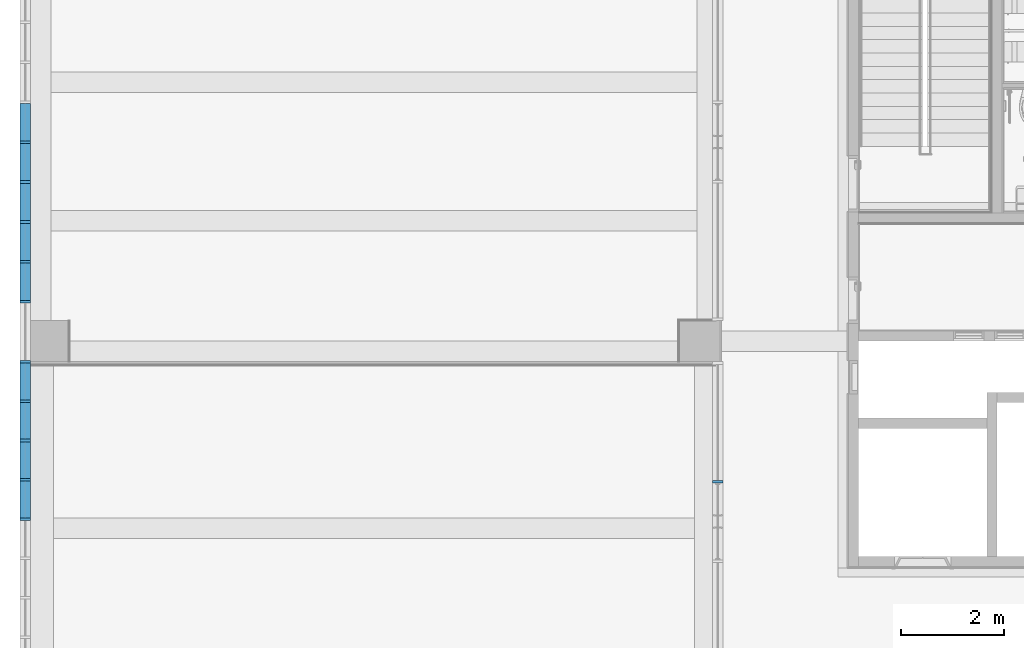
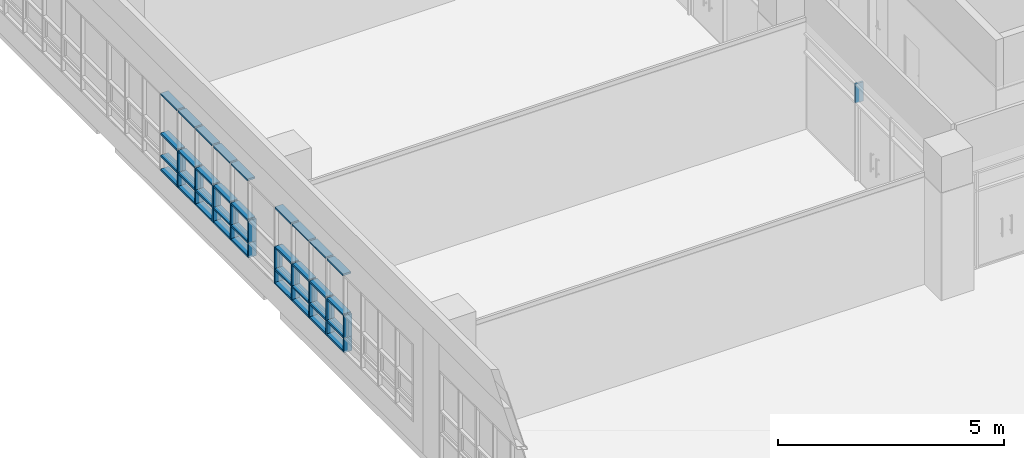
# One storey, part 16 of 81: 57 members, 2 elements without a shape of their own.
"""IFC2X3 building model written with IfcOpenShell, lengths in millimetres."""

from ifc_helpers import new_model, entity, si_unit, converted_unit, derived_unit, direction, frame, origin, origin_2d_with_axis, place, context, subcontext, project, spatial, rectangle, extrude, source, transform, mapped, material, type_object, type_shapes, element, aggregate, save


model = new_model("IFC2X3")

# Units and contexts
model_context = context("Model", 3, precision=0.01, world=origin(), true_north=direction((6.123031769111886e-17, 1.0)))
body_context = subcontext(model_context, "Body", "Model", "MODEL_VIEW")
ifc_project = project(units=[si_unit("LENGTHUNIT", "METRE", prefix="MILLI"), si_unit("AREAUNIT", "SQUARE_METRE"), si_unit("VOLUMEUNIT", "CUBIC_METRE"), converted_unit("PLANEANGLEUNIT", "DEGREE", entity("IfcRatioMeasure", 0.017453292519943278), si_unit("PLANEANGLEUNIT", "RADIAN"), dimensions=[0, 0, 0, 0, 0, 0, 0]), si_unit("MASSUNIT", "GRAM", prefix="KILO"), derived_unit("MASSDENSITYUNIT", [(si_unit("MASSUNIT", "GRAM", prefix="KILO"), 1), (si_unit("LENGTHUNIT", "METRE"), -3)]), derived_unit("MOMENTOFINERTIAUNIT", [(si_unit("LENGTHUNIT", "METRE"), 4)]), si_unit("TIMEUNIT", "SECOND"), si_unit("FREQUENCYUNIT", "HERTZ"), si_unit("THERMODYNAMICTEMPERATUREUNIT", "DEGREE_CELSIUS"), derived_unit("THERMALTRANSMITTANCEUNIT", [(si_unit("MASSUNIT", "GRAM", prefix="KILO"), 1), (si_unit("THERMODYNAMICTEMPERATUREUNIT", "KELVIN"), -1), (si_unit("TIMEUNIT", "SECOND"), -3)]), derived_unit("VOLUMETRICFLOWRATEUNIT", [(si_unit("LENGTHUNIT", "METRE"), 3), (si_unit("TIMEUNIT", "SECOND"), -1)]), derived_unit("MASSFLOWRATEUNIT", [(si_unit("MASSUNIT", "GRAM", prefix="KILO"), 1), (si_unit("TIMEUNIT", "SECOND"), -1)]), derived_unit("ROTATIONALFREQUENCYUNIT", [(si_unit("TIMEUNIT", "SECOND"), -1)]), si_unit("ELECTRICCURRENTUNIT", "AMPERE"), si_unit("ELECTRICVOLTAGEUNIT", "VOLT"), si_unit("POWERUNIT", "WATT"), si_unit("FORCEUNIT", "NEWTON", prefix="KILO"), si_unit("ILLUMINANCEUNIT", "LUX"), si_unit("LUMINOUSFLUXUNIT", "LUMEN"), si_unit("LUMINOUSINTENSITYUNIT", "CANDELA"), derived_unit("USERDEFINED", [(si_unit("MASSUNIT", "GRAM", prefix="KILO"), -1), (si_unit("LENGTHUNIT", "METRE"), -2), (si_unit("TIMEUNIT", "SECOND"), 3), (si_unit("LUMINOUSFLUXUNIT", "LUMEN"), 1)]), derived_unit("SOUNDPOWERUNIT", [(si_unit("MASSUNIT", "GRAM", prefix="KILO"), 1), (si_unit("LENGTHUNIT", "METRE"), 2), (si_unit("TIMEUNIT", "SECOND"), -3)]), derived_unit("SOUNDPRESSUREUNIT", [(si_unit("MASSUNIT", "GRAM", prefix="KILO"), 1), (si_unit("LENGTHUNIT", "METRE"), -1), (si_unit("TIMEUNIT", "SECOND"), -2)]), derived_unit("LINEARVELOCITYUNIT", [(si_unit("LENGTHUNIT", "METRE"), 1), (si_unit("TIMEUNIT", "SECOND"), -1)]), si_unit("PRESSUREUNIT", "PASCAL"), derived_unit("USERDEFINED", [(si_unit("LENGTHUNIT", "METRE"), -2), (si_unit("MASSUNIT", "GRAM", prefix="KILO"), 1), (si_unit("TIMEUNIT", "SECOND"), -2)]), derived_unit("LINEARFORCEUNIT", [(si_unit("MASSUNIT", "GRAM", prefix="KILO"), 1), (si_unit("LENGTHUNIT", "METRE"), 1), (si_unit("TIMEUNIT", "SECOND"), -2), (si_unit("LENGTHUNIT", "METRE"), -1)]), derived_unit("PLANARFORCEUNIT", [(si_unit("MASSUNIT", "GRAM", prefix="KILO"), 1), (si_unit("LENGTHUNIT", "METRE"), 1), (si_unit("TIMEUNIT", "SECOND"), -2), (si_unit("LENGTHUNIT", "METRE"), -2)])], contexts=[model_context])

# Site, building, storey
site_placement = place(None, frame((-14167.972527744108, -657.2125860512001, 0.0)))
site = spatial("IfcSite", under=ifc_project, at=site_placement, Name="Default", CompositionType="ELEMENT")
building_placement = place(site_placement, origin())
building = spatial("IfcBuilding", under=site, at=building_placement, Name="Sample Building", CompositionType="ELEMENT")
storey_placement = place(building_placement, frame((0.0, 0.0, 13400.0)))
storey = spatial("IfcBuildingStorey", under=building, at=storey_placement, Name="지상 4층", CompositionType="ELEMENT", Elevation=13400.00000000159)

# Curtain wall, members
curtain_wall_type = type_object("IfcCurtainWallType", Name="커튼월:CW112-스테인리스 스틸 커튼월", PredefinedType="NOTDEFINED")
curtain_wall_1_placement = place(storey_placement, frame((0.0, 0.0, -13400.0)))
curtain_wall_1 = element("IfcCurtainWall", 1, at=curtain_wall_1_placement, inside=storey, type_object=curtain_wall_type, Name="커튼월:CW112-스테인리스 스틸 커튼월", ObjectType="커튼월:CW112-스테인리스 스틸 커튼월")
ifc_material = material(Name="<Unnamed>")
member_type_1 = type_object("IfcMemberType", Name="직사각형 멀리언:CW200-직사각형 멀리언 50x200mm", PredefinedType="MULLION", material=ifc_material)
shared_shape_1 = source(origin(), body_context, "Body", "SweptSolid", [
    extrude(rectangle(XDim=200.0, YDim=50.0, at=origin_2d_with_axis()), frame((0.0, 0.0, -600.0), z_axis=(0.0, 0.0, 1.0), x_axis=(0.0, -1.0, 0.0)), (0.0, 0.0, 1.0), 600.0),
])
type_shapes(member_type_1, [shared_shape_1])
member_1_placement = place(curtain_wall_1_placement, frame((14018.570555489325, 23839.81770709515, 14400.0), z_axis=(0.0, 0.0, -1.0), x_axis=(0.0, -1.0, 0.0)))
member_1 = element("IfcMember", 2, at=member_1_placement, type_object=member_type_1, material=ifc_material, Name="직사각형 멀리언:CW200-직사각형 멀리언 50x200mm", ObjectType="직사각형 멀리언:CW200-직사각형 멀리언 50x200mm", context=body_context, shape_type="MappedRepresentation", body=[
    mapped(shared_shape_1, transform((0.0, 0.0, 0.0), scale=1.0)),
])
member_2_placement = place(curtain_wall_1_placement, frame((14018.570555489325, 23060.81770709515, 14400.0), z_axis=(0.0, 0.0, -1.0), x_axis=(0.0, -1.0, 0.0)))
member_2 = element("IfcMember", 3, at=member_2_placement, type_object=member_type_1, material=ifc_material, Name="직사각형 멀리언:CW200-직사각형 멀리언 50x200mm", ObjectType="직사각형 멀리언:CW200-직사각형 멀리언 50x200mm", context=body_context, shape_type="MappedRepresentation", body=[
    mapped(shared_shape_1, transform((0.0, 0.0, 0.0), scale=1.0)),
])
member_3_placement = place(curtain_wall_1_placement, frame((14018.570555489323, 22281.81770709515, 14400.0), z_axis=(0.0, 0.0, -1.0), x_axis=(0.0, -1.0, 0.0)))
member_3 = element("IfcMember", 4, at=member_3_placement, type_object=member_type_1, material=ifc_material, Name="직사각형 멀리언:CW200-직사각형 멀리언 50x200mm", ObjectType="직사각형 멀리언:CW200-직사각형 멀리언 50x200mm", context=body_context, shape_type="MappedRepresentation", body=[
    mapped(shared_shape_1, transform((0.0, 0.0, 0.0), scale=1.0)),
])
member_4_placement = place(curtain_wall_1_placement, frame((14018.570555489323, 21502.817707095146, 14400.0), z_axis=(0.0, 0.0, -1.0), x_axis=(0.0, -1.0, 0.0)))
member_4 = element("IfcMember", 5, at=member_4_placement, type_object=member_type_1, material=ifc_material, Name="직사각형 멀리언:CW200-직사각형 멀리언 50x200mm", ObjectType="직사각형 멀리언:CW200-직사각형 멀리언 50x200mm", context=body_context, shape_type="MappedRepresentation", body=[
    mapped(shared_shape_1, transform((0.0, 0.0, 0.0), scale=1.0)),
])
member_5_placement = place(curtain_wall_1_placement, frame((14018.570555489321, 20723.817707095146, 14400.0), z_axis=(0.0, 0.0, -1.0), x_axis=(0.0, -1.0, 0.0)))
member_5 = element("IfcMember", 6, at=member_5_placement, type_object=member_type_1, material=ifc_material, Name="직사각형 멀리언:CW200-직사각형 멀리언 50x200mm", ObjectType="직사각형 멀리언:CW200-직사각형 멀리언 50x200mm", context=body_context, shape_type="MappedRepresentation", body=[
    mapped(shared_shape_1, transform((0.0, 0.0, 0.0), scale=1.0)),
])
member_6_placement = place(curtain_wall_1_placement, frame((14018.57055548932, 18787.31770709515, 14400.0), z_axis=(0.0, 0.0, -1.0), x_axis=(0.0, -1.0, 0.0)))
member_6 = element("IfcMember", 7, at=member_6_placement, type_object=member_type_1, material=ifc_material, Name="직사각형 멀리언:CW200-직사각형 멀리언 50x200mm", ObjectType="직사각형 멀리언:CW200-직사각형 멀리언 50x200mm", context=body_context, shape_type="MappedRepresentation", body=[
    mapped(shared_shape_1, transform((0.0, 0.0, 0.0), scale=1.0)),
])
member_7_placement = place(curtain_wall_1_placement, frame((14018.57055548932, 19553.81770709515, 14400.0), z_axis=(0.0, 0.0, -1.0), x_axis=(0.0, -1.0, 0.0)))
member_7 = element("IfcMember", 8, at=member_7_placement, type_object=member_type_1, material=ifc_material, Name="직사각형 멀리언:CW200-직사각형 멀리언 50x200mm", ObjectType="직사각형 멀리언:CW200-직사각형 멀리언 50x200mm", context=body_context, shape_type="MappedRepresentation", body=[
    mapped(shared_shape_1, transform((0.0, 0.0, 0.0), scale=1.0)),
])
member_8_placement = place(curtain_wall_1_placement, frame((14018.570555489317, 18020.81770709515, 14400.0), z_axis=(0.0, 0.0, -1.0), x_axis=(0.0, -1.0, 0.0)))
member_8 = element("IfcMember", 9, at=member_8_placement, type_object=member_type_1, material=ifc_material, Name="직사각형 멀리언:CW200-직사각형 멀리언 50x200mm", ObjectType="직사각형 멀리언:CW200-직사각형 멀리언 50x200mm", context=body_context, shape_type="MappedRepresentation", body=[
    mapped(shared_shape_1, transform((0.0, 0.0, 0.0), scale=1.0)),
])
member_9_placement = place(curtain_wall_1_placement, frame((14018.570555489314, 16487.81770709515, 14400.0), z_axis=(0.0, 0.0, -1.0), x_axis=(0.0, -1.0, 0.0)))
member_9 = element("IfcMember", 10, at=member_9_placement, type_object=member_type_1, material=ifc_material, Name="직사각형 멀리언:CW200-직사각형 멀리언 50x200mm", ObjectType="직사각형 멀리언:CW200-직사각형 멀리언 50x200mm", context=body_context, shape_type="MappedRepresentation", body=[
    mapped(shared_shape_1, transform((0.0, 0.0, 0.0), scale=1.0)),
])
member_10_placement = place(curtain_wall_1_placement, frame((14018.570555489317, 17254.317707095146, 14400.0), z_axis=(0.0, 0.0, -1.0), x_axis=(0.0, -1.0, 0.0)))
member_10 = element("IfcMember", 11, at=member_10_placement, type_object=member_type_1, material=ifc_material, Name="직사각형 멀리언:CW200-직사각형 멀리언 50x200mm", ObjectType="직사각형 멀리언:CW200-직사각형 멀리언 50x200mm", context=body_context, shape_type="MappedRepresentation", body=[
    mapped(shared_shape_1, transform((0.0, 0.0, 0.0), scale=1.0)),
])

# Curtain wall, member
curtain_wall_2_placement = place(storey_placement, frame((0.0, 0.0, -13400.0)))
curtain_wall_2 = element("IfcCurtainWall", 12, at=curtain_wall_2_placement, inside=storey, type_object=curtain_wall_type, Name="커튼월:CW112-스테인리스 스틸 커튼월", ObjectType="커튼월:CW112-스테인리스 스틸 커튼월")
member_type_2 = type_object("IfcMemberType", Name="직사각형 멀리언:CW200-직사각형 멀리언 50x200mm", PredefinedType="MULLION", material=ifc_material)
shared_shape_2 = source(origin(), body_context, "Body", "SweptSolid", [
    extrude(rectangle(XDim=200.0, YDim=50.0, at=origin_2d_with_axis()), frame((0.0, 0.0, -520.0), z_axis=(0.0, 0.0, 1.0), x_axis=(0.0, -1.0, 0.0)), (0.0, 0.0, 1.0), 520.0000000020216),
])
type_shapes(member_type_2, [shared_shape_2])
member_11_placement = place(curtain_wall_2_placement, frame((27522.955105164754, 17217.177624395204, 15580.0), z_axis=(0.0, 0.0, -1.0), x_axis=(0.0, -1.0, 0.0)))
member_11 = element("IfcMember", 13, at=member_11_placement, type_object=member_type_2, material=ifc_material, Name="직사각형 멀리언:CW200-직사각형 멀리언 50x200mm", ObjectType="직사각형 멀리언:CW200-직사각형 멀리언 50x200mm", context=body_context, shape_type="MappedRepresentation", body=[
    mapped(shared_shape_2, transform((0.0, 0.0, 0.0), scale=1.0)),
])
aggregate(curtain_wall_2, [member_11])

# Member
member_type_3 = type_object("IfcMemberType", Name="직사각형 멀리언:CW200-직사각형 멀리언 50x200mm", PredefinedType="MULLION", material=ifc_material)
shared_shape_3 = source(origin(), body_context, "Body", "SweptSolid", [
    extrude(rectangle(XDim=200.0, YDim=50.0, at=origin_2d_with_axis()), frame((-25.0, 0.0, -729.0), z_axis=(0.0, 0.0, 1.0), x_axis=(0.0, -1.0, 0.0)), (0.0, 0.0, 1.0), 729.000000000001),
])
type_shapes(member_type_3, [shared_shape_3])
member_12_placement = place(curtain_wall_1_placement, frame((14018.570555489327, 24593.81770709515, 14000.0), z_axis=(0.0, 1.0, 0.0), x_axis=(0.0, 0.0, -1.0)))
member_12 = element("IfcMember", 14, at=member_12_placement, type_object=member_type_3, material=ifc_material, Name="직사각형 멀리언:CW200-직사각형 멀리언 50x200mm", ObjectType="직사각형 멀리언:CW200-직사각형 멀리언 50x200mm", context=body_context, shape_type="MappedRepresentation", body=[
    mapped(shared_shape_3, transform((0.0, 0.0, 0.0), scale=1.0)),
])

member_13_placement = place(curtain_wall_1_placement, frame((14018.570555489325, 23814.81770709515, 14000.0), z_axis=(0.0, 1.0, 0.0), x_axis=(0.0, 0.0, -1.0)))
member_13 = element("IfcMember", 15, at=member_13_placement, type_object=member_type_3, material=ifc_material, Name="직사각형 멀리언:CW200-직사각형 멀리언 50x200mm", ObjectType="직사각형 멀리언:CW200-직사각형 멀리언 50x200mm", context=body_context, shape_type="MappedRepresentation", body=[
    mapped(shared_shape_3, transform((0.0, 0.0, 0.0), scale=1.0)),
])

member_14_placement = place(curtain_wall_1_placement, frame((14018.570555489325, 23035.81770709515, 14000.0), z_axis=(0.0, 1.0, 0.0), x_axis=(0.0, 0.0, -1.0)))
member_14 = element("IfcMember", 16, at=member_14_placement, type_object=member_type_3, material=ifc_material, Name="직사각형 멀리언:CW200-직사각형 멀리언 50x200mm", ObjectType="직사각형 멀리언:CW200-직사각형 멀리언 50x200mm", context=body_context, shape_type="MappedRepresentation", body=[
    mapped(shared_shape_3, transform((0.0, 0.0, 0.0), scale=1.0)),
])

member_15_placement = place(curtain_wall_1_placement, frame((14018.570555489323, 22256.81770709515, 14000.0), z_axis=(0.0, 1.0, 0.0), x_axis=(0.0, 0.0, -1.0)))
member_15 = element("IfcMember", 17, at=member_15_placement, type_object=member_type_3, material=ifc_material, Name="직사각형 멀리언:CW200-직사각형 멀리언 50x200mm", ObjectType="직사각형 멀리언:CW200-직사각형 멀리언 50x200mm", context=body_context, shape_type="MappedRepresentation", body=[
    mapped(shared_shape_3, transform((0.0, 0.0, 0.0), scale=1.0)),
])

member_16_placement = place(curtain_wall_1_placement, frame((14018.570555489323, 21477.81770709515, 14000.0), z_axis=(0.0, 1.0, 0.0), x_axis=(0.0, 0.0, -1.0)))
member_16 = element("IfcMember", 18, at=member_16_placement, type_object=member_type_3, material=ifc_material, Name="직사각형 멀리언:CW200-직사각형 멀리언 50x200mm", ObjectType="직사각형 멀리언:CW200-직사각형 멀리언 50x200mm", context=body_context, shape_type="MappedRepresentation", body=[
    mapped(shared_shape_3, transform((0.0, 0.0, 0.0), scale=1.0)),
])

member_type_4 = type_object("IfcMemberType", Name="직사각형 멀리언:CW200-직사각형 멀리언 50x200mm", PredefinedType="MULLION", material=ifc_material)
shared_shape_4 = source(origin(), body_context, "Body", "SweptSolid", [
    extrude(rectangle(XDim=200.0, YDim=50.0, at=origin_2d_with_axis()), frame((0.0, 0.0, -729.0), z_axis=(0.0, 0.0, 1.0), x_axis=(0.0, -1.0, 0.0)), (0.0, 0.0, 1.0), 728.9999999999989),
])
type_shapes(member_type_4, [shared_shape_4])
member_17_placement = place(curtain_wall_1_placement, frame((14018.570555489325, 23864.81770709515, 14400.0), z_axis=(0.0, -1.0, 0.0), x_axis=(0.0, 0.0, 1.0)))
member_17 = element("IfcMember", 19, at=member_17_placement, type_object=member_type_4, material=ifc_material, Name="직사각형 멀리언:CW200-직사각형 멀리언 50x200mm", ObjectType="직사각형 멀리언:CW200-직사각형 멀리언 50x200mm", context=body_context, shape_type="MappedRepresentation", body=[
    mapped(shared_shape_4, transform((0.0, 0.0, 0.0), scale=1.0)),
])

member_18_placement = place(curtain_wall_1_placement, frame((14018.570555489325, 23864.81770709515, 15000.0), z_axis=(0.0, -1.0, 0.0), x_axis=(0.0, 0.0, 1.0)))
member_18 = element("IfcMember", 20, at=member_18_placement, type_object=member_type_4, material=ifc_material, Name="직사각형 멀리언:CW200-직사각형 멀리언 50x200mm", ObjectType="직사각형 멀리언:CW200-직사각형 멀리언 50x200mm", context=body_context, shape_type="MappedRepresentation", body=[
    mapped(shared_shape_4, transform((0.0, 0.0, 0.0), scale=1.0)),
])

member_19_placement = place(curtain_wall_1_placement, frame((14018.570555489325, 23085.817707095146, 14400.0), z_axis=(0.0, -1.0, 0.0), x_axis=(0.0, 0.0, 1.0)))
member_19 = element("IfcMember", 21, at=member_19_placement, type_object=member_type_4, material=ifc_material, Name="직사각형 멀리언:CW200-직사각형 멀리언 50x200mm", ObjectType="직사각형 멀리언:CW200-직사각형 멀리언 50x200mm", context=body_context, shape_type="MappedRepresentation", body=[
    mapped(shared_shape_4, transform((0.0, 0.0, 0.0), scale=1.0)),
])

member_20_placement = place(curtain_wall_1_placement, frame((14018.570555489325, 23085.817707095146, 15000.0), z_axis=(0.0, -1.0, 0.0), x_axis=(0.0, 0.0, 1.0)))
member_20 = element("IfcMember", 22, at=member_20_placement, type_object=member_type_4, material=ifc_material, Name="직사각형 멀리언:CW200-직사각형 멀리언 50x200mm", ObjectType="직사각형 멀리언:CW200-직사각형 멀리언 50x200mm", context=body_context, shape_type="MappedRepresentation", body=[
    mapped(shared_shape_4, transform((0.0, 0.0, 0.0), scale=1.0)),
])

member_21_placement = place(curtain_wall_1_placement, frame((14018.570555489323, 22306.817707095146, 14400.0), z_axis=(0.0, -1.0, 0.0), x_axis=(0.0, 0.0, 1.0)))
member_21 = element("IfcMember", 23, at=member_21_placement, type_object=member_type_4, material=ifc_material, Name="직사각형 멀리언:CW200-직사각형 멀리언 50x200mm", ObjectType="직사각형 멀리언:CW200-직사각형 멀리언 50x200mm", context=body_context, shape_type="MappedRepresentation", body=[
    mapped(shared_shape_4, transform((0.0, 0.0, 0.0), scale=1.0)),
])

member_22_placement = place(curtain_wall_1_placement, frame((14018.570555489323, 22306.817707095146, 15000.0), z_axis=(0.0, -1.0, 0.0), x_axis=(0.0, 0.0, 1.0)))
member_22 = element("IfcMember", 24, at=member_22_placement, type_object=member_type_4, material=ifc_material, Name="직사각형 멀리언:CW200-직사각형 멀리언 50x200mm", ObjectType="직사각형 멀리언:CW200-직사각형 멀리언 50x200mm", context=body_context, shape_type="MappedRepresentation", body=[
    mapped(shared_shape_4, transform((0.0, 0.0, 0.0), scale=1.0)),
])

member_23_placement = place(curtain_wall_1_placement, frame((14018.570555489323, 21527.817707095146, 14400.0), z_axis=(0.0, -1.0, 0.0), x_axis=(0.0, 0.0, 1.0)))
member_23 = element("IfcMember", 25, at=member_23_placement, type_object=member_type_4, material=ifc_material, Name="직사각형 멀리언:CW200-직사각형 멀리언 50x200mm", ObjectType="직사각형 멀리언:CW200-직사각형 멀리언 50x200mm", context=body_context, shape_type="MappedRepresentation", body=[
    mapped(shared_shape_4, transform((0.0, 0.0, 0.0), scale=1.0)),
])

member_24_placement = place(curtain_wall_1_placement, frame((14018.570555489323, 21527.817707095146, 15000.0), z_axis=(0.0, -1.0, 0.0), x_axis=(0.0, 0.0, 1.0)))
member_24 = element("IfcMember", 26, at=member_24_placement, type_object=member_type_4, material=ifc_material, Name="직사각형 멀리언:CW200-직사각형 멀리언 50x200mm", ObjectType="직사각형 멀리언:CW200-직사각형 멀리언 50x200mm", context=body_context, shape_type="MappedRepresentation", body=[
    mapped(shared_shape_4, transform((0.0, 0.0, 0.0), scale=1.0)),
])

member_25_placement = place(curtain_wall_1_placement, frame((14018.570555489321, 20748.817707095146, 14400.0), z_axis=(0.0, -1.0, 0.0), x_axis=(0.0, 0.0, 1.0)))
member_25 = element("IfcMember", 27, at=member_25_placement, type_object=member_type_4, material=ifc_material, Name="직사각형 멀리언:CW200-직사각형 멀리언 50x200mm", ObjectType="직사각형 멀리언:CW200-직사각형 멀리언 50x200mm", context=body_context, shape_type="MappedRepresentation", body=[
    mapped(shared_shape_4, transform((0.0, 0.0, 0.0), scale=1.0)),
])

member_26_placement = place(curtain_wall_1_placement, frame((14018.570555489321, 20748.817707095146, 15000.0), z_axis=(0.0, -1.0, 0.0), x_axis=(0.0, 0.0, 1.0)))
member_26 = element("IfcMember", 28, at=member_26_placement, type_object=member_type_4, material=ifc_material, Name="직사각형 멀리언:CW200-직사각형 멀리언 50x200mm", ObjectType="직사각형 멀리언:CW200-직사각형 멀리언 50x200mm", context=body_context, shape_type="MappedRepresentation", body=[
    mapped(shared_shape_4, transform((0.0, 0.0, 0.0), scale=1.0)),
])

member_type_5 = type_object("IfcMemberType", Name="직사각형 멀리언:CW200-직사각형 멀리언 50x200mm", PredefinedType="MULLION", material=ifc_material)
shared_shape_5 = source(origin(), body_context, "Body", "SweptSolid", [
    extrude(rectangle(XDim=200.0, YDim=50.0, at=origin_2d_with_axis()), frame((-25.0, 0.0, -729.0), z_axis=(0.0, 0.0, 1.0), x_axis=(0.0, -1.0, 0.0)), (0.0, 0.0, 1.0), 728.9999999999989),
])
type_shapes(member_type_5, [shared_shape_5])
member_27_placement = place(curtain_wall_1_placement, frame((14018.570555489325, 23864.81770709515, 16100.0), z_axis=(0.0, -1.0, 0.0), x_axis=(0.0, 0.0, 1.0)))
member_27 = element("IfcMember", 29, at=member_27_placement, type_object=member_type_5, material=ifc_material, Name="직사각형 멀리언:CW200-직사각형 멀리언 50x200mm", ObjectType="직사각형 멀리언:CW200-직사각형 멀리언 50x200mm", context=body_context, shape_type="MappedRepresentation", body=[
    mapped(shared_shape_5, transform((0.0, 0.0, 0.0), scale=1.0)),
])

member_28_placement = place(curtain_wall_1_placement, frame((14018.570555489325, 23085.817707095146, 16100.0), z_axis=(0.0, -1.0, 0.0), x_axis=(0.0, 0.0, 1.0)))
member_28 = element("IfcMember", 30, at=member_28_placement, type_object=member_type_5, material=ifc_material, Name="직사각형 멀리언:CW200-직사각형 멀리언 50x200mm", ObjectType="직사각형 멀리언:CW200-직사각형 멀리언 50x200mm", context=body_context, shape_type="MappedRepresentation", body=[
    mapped(shared_shape_5, transform((0.0, 0.0, 0.0), scale=1.0)),
])

member_29_placement = place(curtain_wall_1_placement, frame((14018.570555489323, 22306.817707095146, 16100.0), z_axis=(0.0, -1.0, 0.0), x_axis=(0.0, 0.0, 1.0)))
member_29 = element("IfcMember", 31, at=member_29_placement, type_object=member_type_5, material=ifc_material, Name="직사각형 멀리언:CW200-직사각형 멀리언 50x200mm", ObjectType="직사각형 멀리언:CW200-직사각형 멀리언 50x200mm", context=body_context, shape_type="MappedRepresentation", body=[
    mapped(shared_shape_5, transform((0.0, 0.0, 0.0), scale=1.0)),
])

member_30_placement = place(curtain_wall_1_placement, frame((14018.570555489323, 21527.81770709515, 16100.0), z_axis=(0.0, -1.0, 0.0), x_axis=(0.0, 0.0, 1.0)))
member_30 = element("IfcMember", 32, at=member_30_placement, type_object=member_type_5, material=ifc_material, Name="직사각형 멀리언:CW200-직사각형 멀리언 50x200mm", ObjectType="직사각형 멀리언:CW200-직사각형 멀리언 50x200mm", context=body_context, shape_type="MappedRepresentation", body=[
    mapped(shared_shape_5, transform((0.0, 0.0, 0.0), scale=1.0)),
])

member_31_placement = place(curtain_wall_1_placement, frame((14018.570555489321, 20748.817707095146, 16100.0), z_axis=(0.0, -1.0, 0.0), x_axis=(0.0, 0.0, 1.0)))
member_31 = element("IfcMember", 33, at=member_31_placement, type_object=member_type_5, material=ifc_material, Name="직사각형 멀리언:CW200-직사각형 멀리언 50x200mm", ObjectType="직사각형 멀리언:CW200-직사각형 멀리언 50x200mm", context=body_context, shape_type="MappedRepresentation", body=[
    mapped(shared_shape_5, transform((0.0, 0.0, 0.0), scale=1.0)),
])

member_type_6 = type_object("IfcMemberType", Name="직사각형 멀리언:CW200-직사각형 멀리언 50x200mm", PredefinedType="MULLION", material=ifc_material)
shared_shape_6 = source(origin(), body_context, "Body", "SweptSolid", [
    extrude(rectangle(XDim=200.0, YDim=50.0, at=origin_2d_with_axis()), frame((0.0, 0.0, -400.0), z_axis=(0.0, 0.0, 1.0), x_axis=(0.0, -1.0, 0.0)), (0.0, 0.0, 1.0), 399.9999999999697),
])
type_shapes(member_type_6, [shared_shape_6])
member_32_placement = place(curtain_wall_1_placement, frame((14018.570555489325, 23839.81770709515, 14000.0), z_axis=(0.0, 0.0, -1.0), x_axis=(0.0, -1.0, 0.0)))
member_32 = element("IfcMember", 34, at=member_32_placement, type_object=member_type_6, material=ifc_material, Name="직사각형 멀리언:CW200-직사각형 멀리언 50x200mm", ObjectType="직사각형 멀리언:CW200-직사각형 멀리언 50x200mm", context=body_context, shape_type="MappedRepresentation", body=[
    mapped(shared_shape_6, transform((0.0, 0.0, 0.0), scale=1.0)),
])

member_33_placement = place(curtain_wall_1_placement, frame((14018.570555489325, 23060.81770709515, 14000.0), z_axis=(0.0, 0.0, -1.0), x_axis=(0.0, -1.0, 0.0)))
member_33 = element("IfcMember", 35, at=member_33_placement, type_object=member_type_6, material=ifc_material, Name="직사각형 멀리언:CW200-직사각형 멀리언 50x200mm", ObjectType="직사각형 멀리언:CW200-직사각형 멀리언 50x200mm", context=body_context, shape_type="MappedRepresentation", body=[
    mapped(shared_shape_6, transform((0.0, 0.0, 0.0), scale=1.0)),
])

member_34_placement = place(curtain_wall_1_placement, frame((14018.570555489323, 22281.81770709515, 14000.0), z_axis=(0.0, 0.0, -1.0), x_axis=(0.0, -1.0, 0.0)))
member_34 = element("IfcMember", 36, at=member_34_placement, type_object=member_type_6, material=ifc_material, Name="직사각형 멀리언:CW200-직사각형 멀리언 50x200mm", ObjectType="직사각형 멀리언:CW200-직사각형 멀리언 50x200mm", context=body_context, shape_type="MappedRepresentation", body=[
    mapped(shared_shape_6, transform((0.0, 0.0, 0.0), scale=1.0)),
])

member_35_placement = place(curtain_wall_1_placement, frame((14018.570555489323, 21502.817707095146, 14000.0), z_axis=(0.0, 0.0, -1.0), x_axis=(0.0, -1.0, 0.0)))
member_35 = element("IfcMember", 37, at=member_35_placement, type_object=member_type_6, material=ifc_material, Name="직사각형 멀리언:CW200-직사각형 멀리언 50x200mm", ObjectType="직사각형 멀리언:CW200-직사각형 멀리언 50x200mm", context=body_context, shape_type="MappedRepresentation", body=[
    mapped(shared_shape_6, transform((0.0, 0.0, 0.0), scale=1.0)),
])

member_36_placement = place(curtain_wall_1_placement, frame((14018.570555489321, 20723.817707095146, 14000.0), z_axis=(0.0, 0.0, -1.0), x_axis=(0.0, -1.0, 0.0)))
member_36 = element("IfcMember", 38, at=member_36_placement, type_object=member_type_6, material=ifc_material, Name="직사각형 멀리언:CW200-직사각형 멀리언 50x200mm", ObjectType="직사각형 멀리언:CW200-직사각형 멀리언 50x200mm", context=body_context, shape_type="MappedRepresentation", body=[
    mapped(shared_shape_6, transform((0.0, 0.0, 0.0), scale=1.0)),
])

member_37_placement = place(curtain_wall_1_placement, frame((14018.57055548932, 18787.31770709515, 14000.0), z_axis=(0.0, 0.0, -1.0), x_axis=(0.0, -1.0, 0.0)))
member_37 = element("IfcMember", 39, at=member_37_placement, type_object=member_type_6, material=ifc_material, Name="직사각형 멀리언:CW200-직사각형 멀리언 50x200mm", ObjectType="직사각형 멀리언:CW200-직사각형 멀리언 50x200mm", context=body_context, shape_type="MappedRepresentation", body=[
    mapped(shared_shape_6, transform((0.0, 0.0, 0.0), scale=1.0)),
])

member_38_placement = place(curtain_wall_1_placement, frame((14018.57055548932, 19553.81770709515, 14000.0), z_axis=(0.0, 0.0, -1.0), x_axis=(0.0, -1.0, 0.0)))
member_38 = element("IfcMember", 40, at=member_38_placement, type_object=member_type_6, material=ifc_material, Name="직사각형 멀리언:CW200-직사각형 멀리언 50x200mm", ObjectType="직사각형 멀리언:CW200-직사각형 멀리언 50x200mm", context=body_context, shape_type="MappedRepresentation", body=[
    mapped(shared_shape_6, transform((0.0, 0.0, 0.0), scale=1.0)),
])

member_39_placement = place(curtain_wall_1_placement, frame((14018.570555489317, 18020.81770709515, 14000.0), z_axis=(0.0, 0.0, -1.0), x_axis=(0.0, -1.0, 0.0)))
member_39 = element("IfcMember", 41, at=member_39_placement, type_object=member_type_6, material=ifc_material, Name="직사각형 멀리언:CW200-직사각형 멀리언 50x200mm", ObjectType="직사각형 멀리언:CW200-직사각형 멀리언 50x200mm", context=body_context, shape_type="MappedRepresentation", body=[
    mapped(shared_shape_6, transform((0.0, 0.0, 0.0), scale=1.0)),
])

member_40_placement = place(curtain_wall_1_placement, frame((14018.570555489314, 16487.81770709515, 14000.0), z_axis=(0.0, 0.0, -1.0), x_axis=(0.0, -1.0, 0.0)))
member_40 = element("IfcMember", 42, at=member_40_placement, type_object=member_type_6, material=ifc_material, Name="직사각형 멀리언:CW200-직사각형 멀리언 50x200mm", ObjectType="직사각형 멀리언:CW200-직사각형 멀리언 50x200mm", context=body_context, shape_type="MappedRepresentation", body=[
    mapped(shared_shape_6, transform((0.0, 0.0, 0.0), scale=1.0)),
])

member_41_placement = place(curtain_wall_1_placement, frame((14018.570555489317, 17254.317707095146, 14000.0), z_axis=(0.0, 0.0, -1.0), x_axis=(0.0, -1.0, 0.0)))
member_41 = element("IfcMember", 43, at=member_41_placement, type_object=member_type_6, material=ifc_material, Name="직사각형 멀리언:CW200-직사각형 멀리언 50x200mm", ObjectType="직사각형 멀리언:CW200-직사각형 멀리언 50x200mm", context=body_context, shape_type="MappedRepresentation", body=[
    mapped(shared_shape_6, transform((0.0, 0.0, 0.0), scale=1.0)),
])

member_type_7 = type_object("IfcMemberType", Name="직사각형 멀리언:CW200-직사각형 멀리언 50x200mm", PredefinedType="MULLION", material=ifc_material)
shared_shape_7 = source(origin(), body_context, "Body", "SweptSolid", [
    extrude(rectangle(XDim=200.0, YDim=50.0, at=origin_2d_with_axis()), frame((-25.0, 0.0, -716.4999999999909), z_axis=(0.0, 0.0, 1.0), x_axis=(0.0, -1.0, 0.0)), (0.0, 0.0, 1.0), 716.4999999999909),
])
type_shapes(member_type_7, [shared_shape_7])
member_42_placement = place(curtain_wall_1_placement, frame((14018.57055548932, 18812.317707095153, 16100.0), z_axis=(0.0, -1.0, 0.0), x_axis=(0.0, 0.0, 1.0)))
member_42 = element("IfcMember", 44, at=member_42_placement, type_object=member_type_7, material=ifc_material, Name="직사각형 멀리언:CW200-직사각형 멀리언 50x200mm", ObjectType="직사각형 멀리언:CW200-직사각형 멀리언 50x200mm", context=body_context, shape_type="MappedRepresentation", body=[
    mapped(shared_shape_7, transform((0.0, 0.0, 0.0), scale=1.0)),
])

member_43_placement = place(curtain_wall_1_placement, frame((14018.570555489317, 18045.817707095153, 16100.0), z_axis=(0.0, -1.0, 0.0), x_axis=(0.0, 0.0, 1.0)))
member_43 = element("IfcMember", 45, at=member_43_placement, type_object=member_type_7, material=ifc_material, Name="직사각형 멀리언:CW200-직사각형 멀리언 50x200mm", ObjectType="직사각형 멀리언:CW200-직사각형 멀리언 50x200mm", context=body_context, shape_type="MappedRepresentation", body=[
    mapped(shared_shape_7, transform((0.0, 0.0, 0.0), scale=1.0)),
])

member_44_placement = place(curtain_wall_1_placement, frame((14018.570555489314, 16512.81770709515, 16100.0), z_axis=(0.0, -1.0, 0.0), x_axis=(0.0, 0.0, 1.0)))
member_44 = element("IfcMember", 46, at=member_44_placement, type_object=member_type_7, material=ifc_material, Name="직사각형 멀리언:CW200-직사각형 멀리언 50x200mm", ObjectType="직사각형 멀리언:CW200-직사각형 멀리언 50x200mm", context=body_context, shape_type="MappedRepresentation", body=[
    mapped(shared_shape_7, transform((0.0, 0.0, 0.0), scale=1.0)),
])

member_45_placement = place(curtain_wall_1_placement, frame((14018.570555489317, 17279.31770709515, 16100.0), z_axis=(0.0, -1.0, 0.0), x_axis=(0.0, 0.0, 1.0)))
member_45 = element("IfcMember", 47, at=member_45_placement, type_object=member_type_7, material=ifc_material, Name="직사각형 멀리언:CW200-직사각형 멀리언 50x200mm", ObjectType="직사각형 멀리언:CW200-직사각형 멀리언 50x200mm", context=body_context, shape_type="MappedRepresentation", body=[
    mapped(shared_shape_7, transform((0.0, 0.0, 0.0), scale=1.0)),
])

member_type_8 = type_object("IfcMemberType", Name="직사각형 멀리언:CW200-직사각형 멀리언 50x200mm", PredefinedType="MULLION", material=ifc_material)
shared_shape_8 = source(origin(), body_context, "Body", "SweptSolid", [
    extrude(rectangle(XDim=200.0, YDim=50.0, at=origin_2d_with_axis()), frame((-25.0, 0.0, -716.4999999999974), z_axis=(0.0, 0.0, 1.0), x_axis=(0.0, -1.0, 0.0)), (0.0, 0.0, 1.0), 716.4999999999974),
])
type_shapes(member_type_8, [shared_shape_8])
member_46_placement = place(curtain_wall_1_placement, frame((14018.57055548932, 18762.31770709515, 14000.0), z_axis=(0.0, 1.0, 0.0), x_axis=(0.0, 0.0, -1.0)))
member_46 = element("IfcMember", 48, at=member_46_placement, type_object=member_type_8, material=ifc_material, Name="직사각형 멀리언:CW200-직사각형 멀리언 50x200mm", ObjectType="직사각형 멀리언:CW200-직사각형 멀리언 50x200mm", context=body_context, shape_type="MappedRepresentation", body=[
    mapped(shared_shape_8, transform((0.0, 0.0, 0.0), scale=1.0)),
])

member_47_placement = place(curtain_wall_1_placement, frame((14018.57055548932, 19528.81770709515, 14000.0), z_axis=(0.0, 1.0, 0.0), x_axis=(0.0, 0.0, -1.0)))
member_47 = element("IfcMember", 49, at=member_47_placement, type_object=member_type_8, material=ifc_material, Name="직사각형 멀리언:CW200-직사각형 멀리언 50x200mm", ObjectType="직사각형 멀리언:CW200-직사각형 멀리언 50x200mm", context=body_context, shape_type="MappedRepresentation", body=[
    mapped(shared_shape_8, transform((0.0, 0.0, 0.0), scale=1.0)),
])

member_48_placement = place(curtain_wall_1_placement, frame((14018.570555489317, 17995.81770709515, 14000.0), z_axis=(0.0, 1.0, 0.0), x_axis=(0.0, 0.0, -1.0)))
member_48 = element("IfcMember", 50, at=member_48_placement, type_object=member_type_8, material=ifc_material, Name="직사각형 멀리언:CW200-직사각형 멀리언 50x200mm", ObjectType="직사각형 멀리언:CW200-직사각형 멀리언 50x200mm", context=body_context, shape_type="MappedRepresentation", body=[
    mapped(shared_shape_8, transform((0.0, 0.0, 0.0), scale=1.0)),
])

member_49_placement = place(curtain_wall_1_placement, frame((14018.570555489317, 17229.317707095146, 14000.0), z_axis=(0.0, 1.0, 0.0), x_axis=(0.0, 0.0, -1.0)))
member_49 = element("IfcMember", 51, at=member_49_placement, type_object=member_type_8, material=ifc_material, Name="직사각형 멀리언:CW200-직사각형 멀리언 50x200mm", ObjectType="직사각형 멀리언:CW200-직사각형 멀리언 50x200mm", context=body_context, shape_type="MappedRepresentation", body=[
    mapped(shared_shape_8, transform((0.0, 0.0, 0.0), scale=1.0)),
])

member_type_9 = type_object("IfcMemberType", Name="직사각형 멀리언:CW200-직사각형 멀리언 50x200mm", PredefinedType="MULLION", material=ifc_material)
shared_shape_9 = source(origin(), body_context, "Body", "SweptSolid", [
    extrude(rectangle(XDim=200.0, YDim=50.0, at=origin_2d_with_axis()), frame((0.0, 0.0, -716.4999999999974), z_axis=(0.0, 0.0, 1.0), x_axis=(0.0, -1.0, 0.0)), (0.0, 0.0, 1.0), 716.4999999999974),
])
type_shapes(member_type_9, [shared_shape_9])
member_50_placement = place(curtain_wall_1_placement, frame((14018.570555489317, 18045.817707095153, 14400.0), z_axis=(0.0, -1.0, 0.0), x_axis=(0.0, 0.0, 1.0)))
member_50 = element("IfcMember", 52, at=member_50_placement, type_object=member_type_9, material=ifc_material, Name="직사각형 멀리언:CW200-직사각형 멀리언 50x200mm", ObjectType="직사각형 멀리언:CW200-직사각형 멀리언 50x200mm", context=body_context, shape_type="MappedRepresentation", body=[
    mapped(shared_shape_9, transform((0.0, 0.0, 0.0), scale=1.0)),
])

member_51_placement = place(curtain_wall_1_placement, frame((14018.570555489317, 18045.817707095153, 15000.0), z_axis=(0.0, -1.0, 0.0), x_axis=(0.0, 0.0, 1.0)))
member_51 = element("IfcMember", 53, at=member_51_placement, type_object=member_type_9, material=ifc_material, Name="직사각형 멀리언:CW200-직사각형 멀리언 50x200mm", ObjectType="직사각형 멀리언:CW200-직사각형 멀리언 50x200mm", context=body_context, shape_type="MappedRepresentation", body=[
    mapped(shared_shape_9, transform((0.0, 0.0, 0.0), scale=1.0)),
])

member_52_placement = place(curtain_wall_1_placement, frame((14018.57055548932, 18812.31770709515, 14400.0), z_axis=(0.0, -1.0, 0.0), x_axis=(0.0, 0.0, 1.0)))
member_52 = element("IfcMember", 54, at=member_52_placement, type_object=member_type_9, material=ifc_material, Name="직사각형 멀리언:CW200-직사각형 멀리언 50x200mm", ObjectType="직사각형 멀리언:CW200-직사각형 멀리언 50x200mm", context=body_context, shape_type="MappedRepresentation", body=[
    mapped(shared_shape_9, transform((0.0, 0.0, 0.0), scale=1.0)),
])

member_53_placement = place(curtain_wall_1_placement, frame((14018.57055548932, 18812.31770709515, 15000.0), z_axis=(0.0, -1.0, 0.0), x_axis=(0.0, 0.0, 1.0)))
member_53 = element("IfcMember", 55, at=member_53_placement, type_object=member_type_9, material=ifc_material, Name="직사각형 멀리언:CW200-직사각형 멀리언 50x200mm", ObjectType="직사각형 멀리언:CW200-직사각형 멀리언 50x200mm", context=body_context, shape_type="MappedRepresentation", body=[
    mapped(shared_shape_9, transform((0.0, 0.0, 0.0), scale=1.0)),
])

member_54_placement = place(curtain_wall_1_placement, frame((14018.570555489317, 17279.31770709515, 14400.0), z_axis=(0.0, -1.0, 0.0), x_axis=(0.0, 0.0, 1.0)))
member_54 = element("IfcMember", 56, at=member_54_placement, type_object=member_type_9, material=ifc_material, Name="직사각형 멀리언:CW200-직사각형 멀리언 50x200mm", ObjectType="직사각형 멀리언:CW200-직사각형 멀리언 50x200mm", context=body_context, shape_type="MappedRepresentation", body=[
    mapped(shared_shape_9, transform((0.0, 0.0, 0.0), scale=1.0)),
])

member_55_placement = place(curtain_wall_1_placement, frame((14018.570555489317, 17279.31770709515, 15000.0), z_axis=(0.0, -1.0, 0.0), x_axis=(0.0, 0.0, 1.0)))
member_55 = element("IfcMember", 57, at=member_55_placement, type_object=member_type_9, material=ifc_material, Name="직사각형 멀리언:CW200-직사각형 멀리언 50x200mm", ObjectType="직사각형 멀리언:CW200-직사각형 멀리언 50x200mm", context=body_context, shape_type="MappedRepresentation", body=[
    mapped(shared_shape_9, transform((0.0, 0.0, 0.0), scale=1.0)),
])

member_56_placement = place(curtain_wall_1_placement, frame((14018.570555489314, 16512.81770709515, 14400.0), z_axis=(0.0, -1.0, 0.0), x_axis=(0.0, 0.0, 1.0)))
member_56 = element("IfcMember", 58, at=member_56_placement, type_object=member_type_9, material=ifc_material, Name="직사각형 멀리언:CW200-직사각형 멀리언 50x200mm", ObjectType="직사각형 멀리언:CW200-직사각형 멀리언 50x200mm", context=body_context, shape_type="MappedRepresentation", body=[
    mapped(shared_shape_9, transform((0.0, 0.0, 0.0), scale=1.0)),
])

member_57_placement = place(curtain_wall_1_placement, frame((14018.570555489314, 16512.81770709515, 15000.0), z_axis=(0.0, -1.0, 0.0), x_axis=(0.0, 0.0, 1.0)))
member_57 = element("IfcMember", 59, at=member_57_placement, type_object=member_type_9, material=ifc_material, Name="직사각형 멀리언:CW200-직사각형 멀리언 50x200mm", ObjectType="직사각형 멀리언:CW200-직사각형 멀리언 50x200mm", context=body_context, shape_type="MappedRepresentation", body=[
    mapped(shared_shape_9, transform((0.0, 0.0, 0.0), scale=1.0)),
])

aggregate(curtain_wall_1, [member_12, member_17, member_18, member_27, member_13, member_19, member_20, member_32, member_1, member_28, member_14, member_21, member_22, member_33, member_2, member_29, member_15, member_23, member_24, member_34, member_3, member_30, member_16, member_25, member_26, member_35, member_4, member_31, member_36, member_5, member_42, member_46, member_50, member_51, member_37, member_6, member_47, member_52, member_53, member_38, member_7, member_43, member_48, member_54, member_55, member_39, member_8, member_44, member_40, member_9, member_49, member_56, member_57, member_45, member_41, member_10])

save(model, "model.ifc")
